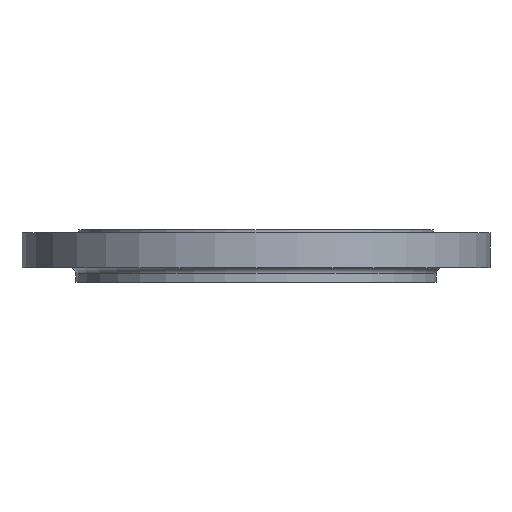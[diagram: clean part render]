
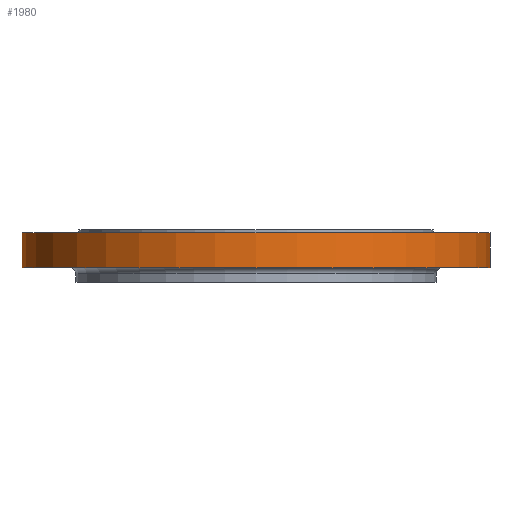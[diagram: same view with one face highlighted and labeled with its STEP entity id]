
A CAD part, front view. The second image highlights one B-rep face of the part: STEP entity #1980.
In plain terms, the highlighted cylindrical face has radius 445 mm (diameter 890 mm), a partial arc.
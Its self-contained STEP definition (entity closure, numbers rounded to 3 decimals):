
#17 = CIRCLE ( 'NONE', #18, 445. ) ;
#18 = AXIS2_PLACEMENT_3D ( 'NONE', #1152, #1151, #1149 ) ;
#82 = DIRECTION ( 'NONE',  ( 1., 0., 0. ) ) ;
#83 = DIRECTION ( 'NONE',  ( 0., 0., 1. ) ) ;
#84 = CARTESIAN_POINT ( 'NONE',  ( 0., 0., -150. ) ) ;
#86 = CYLINDRICAL_SURFACE ( 'NONE', #373, 445. ) ;
#89 = FACE_OUTER_BOUND ( 'NONE', #1405, .T. ) ;
#123 = EDGE_CURVE ( 'NONE', #1846, #1576, #17, .T. ) ;
#266 = CARTESIAN_POINT ( 'NONE',  ( -445., 0., -72. ) ) ;
#334 = VECTOR ( 'NONE', #1078, 1000. ) ;
#373 = AXIS2_PLACEMENT_3D ( 'NONE', #84, #83, #82 ) ;
#422 = EDGE_CURVE ( 'NONE', #1576, #1403, #1080, .T. ) ;
#457 = CARTESIAN_POINT ( 'NONE',  ( 445., 0., -72. ) ) ;
#570 = DIRECTION ( 'NONE',  ( -1., 0., 0. ) ) ;
#571 = DIRECTION ( 'NONE',  ( 0., 0., -1. ) ) ;
#573 = CARTESIAN_POINT ( 'NONE',  ( 0., 0., -5.5 ) ) ;
#597 = CARTESIAN_POINT ( 'NONE',  ( 445., 0., -5.5 ) ) ;
#638 = CARTESIAN_POINT ( 'NONE',  ( -445., 0., -5.5 ) ) ;
#668 = DIRECTION ( 'NONE',  ( 0., 0., 1. ) ) ;
#669 = CARTESIAN_POINT ( 'NONE',  ( -445., 0., -150. ) ) ;
#670 = LINE ( 'NONE', #669, #1639 ) ;
#1078 = DIRECTION ( 'NONE',  ( 0., 0., 1. ) ) ;
#1079 = CARTESIAN_POINT ( 'NONE',  ( 445., 0., -150. ) ) ;
#1080 = LINE ( 'NONE', #1079, #334 ) ;
#1149 = DIRECTION ( 'NONE',  ( 1., 0., 0. ) ) ;
#1151 = DIRECTION ( 'NONE',  ( 0., 0., 1. ) ) ;
#1152 = CARTESIAN_POINT ( 'NONE',  ( 0., 0., -72. ) ) ;
#1252 = EDGE_CURVE ( 'NONE', #1846, #1308, #670, .T. ) ;
#1308 = VERTEX_POINT ( 'NONE', #638 ) ;
#1403 = VERTEX_POINT ( 'NONE', #597 ) ;
#1405 = EDGE_LOOP ( 'NONE', ( #1433, #1428, #1427, #1424 ) ) ;
#1424 = ORIENTED_EDGE ( 'NONE', *, *, #1439, .T. ) ;
#1427 = ORIENTED_EDGE ( 'NONE', *, *, #422, .T. ) ;
#1428 = ORIENTED_EDGE ( 'NONE', *, *, #123, .T. ) ;
#1433 = ORIENTED_EDGE ( 'NONE', *, *, #1252, .F. ) ;
#1439 = EDGE_CURVE ( 'NONE', #1403, #1308, #1770, .T. ) ;
#1576 = VERTEX_POINT ( 'NONE', #457 ) ;
#1639 = VECTOR ( 'NONE', #668, 1000. ) ;
#1770 = CIRCLE ( 'NONE', #1773, 445. ) ;
#1773 = AXIS2_PLACEMENT_3D ( 'NONE', #573, #571, #570 ) ;
#1846 = VERTEX_POINT ( 'NONE', #266 ) ;
#1980 = ADVANCED_FACE ( 'NONE', ( #89 ), #86, .T. ) ;
